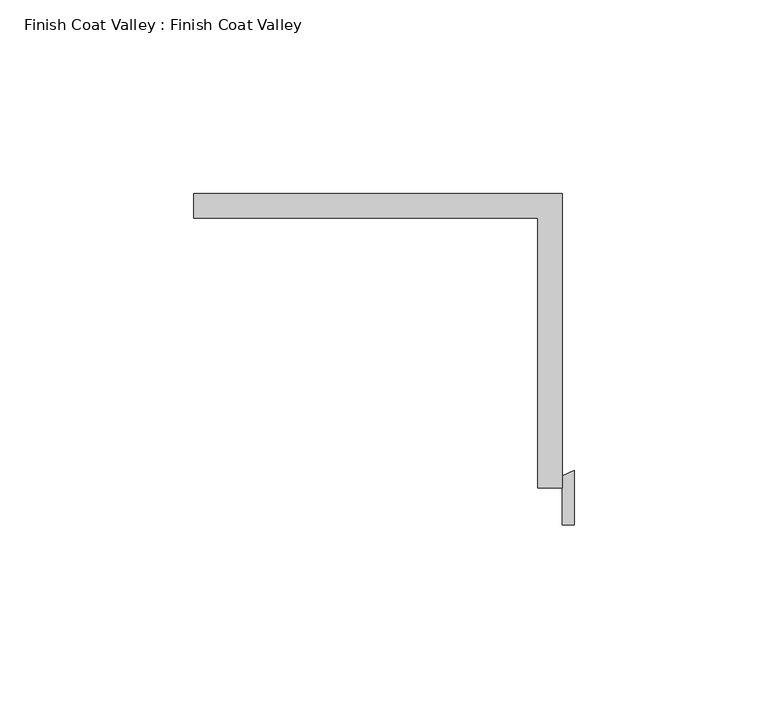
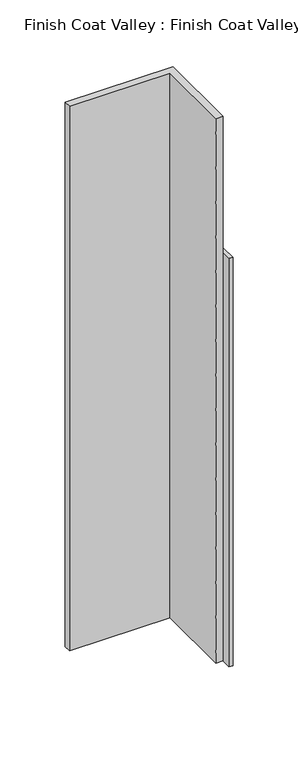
"""IFC4 building model written with IfcOpenShell, lengths in millimetres: proxy geometry, Finish Coat Valley : Finish Coat Valley."""

from ifc_helpers import new_model, si_unit, point, frame_2d, origin, origin_with_axes, place, context, project, spatial, polyline, circle_curve, trimmed, segment, composite_curve, outline, extrude, source, transform, mapped, element, save


def finish_coat_valley_finish_coat_valley_47fa743d(model_context):
    return source(origin(), model_context, "Body", "SweptSolid", [
        extrude(outline(polyline([(26815.4039273, 630.8048866), (26815.4039273, 554.6048866), (26809.0539273, 554.6048866), (26809.0539273, 624.4548866), (26720.1539273, 624.4548866), (26720.1539273, 630.8048866), (26815.4039273, 630.8048866)])), origin_with_axes(), (0.0, 0.0, 1.0), 508.0),
        extrude(outline(composite_curve([segment(trimmed(circle_curve(frame_2d((26824.9289273, 541.2838457)), 19.05), [point((26815.4039273, 557.7816297))], [point((26818.5789273, 559.244358))], False, "CARTESIAN"), True, "CONTINUOUS"), segment(polyline([(26818.5789273, 559.244358), (26818.5789273, 545.0816297), (26815.4039273, 545.0816297), (26815.4039273, 557.7816297)]), True, "CONTINUOUS")], self_intersect=False)), origin_with_axes(), (0.0, 0.0, 1.0), 381.0),
    ])


if __name__ == "__main__":
    model = new_model("IFC4")
    model_context = context("Model", 3, world=origin())
    ifc_project = project(units=[si_unit("LENGTHUNIT", "METRE", prefix="MILLI")], contexts=[model_context])
    site = spatial("IfcSite", under=ifc_project)
    building = spatial("IfcBuilding", under=site)
    placement = place(None, origin())
    finish_coat_valley_finish_coat_valley_shape = finish_coat_valley_finish_coat_valley_47fa743d(model_context)
    element("IfcBuildingElementProxy", 1, Name="Finish Coat Valley : Finish Coat Valley", ObjectType="Finish Coat Valley : Finish Coat Valley", at=placement, inside=building, context=model_context, shape_type="MappedRepresentation", body=[
        mapped(finish_coat_valley_finish_coat_valley_shape, transform((0.0, 0.0, 0.0), x_axis=(1.0, 0.0, 0.0), y_axis=(0.0, 1.0, 0.0), z_axis=(0.0, 0.0, 1.0))),
    ])
    save(model, "model.ifc")
